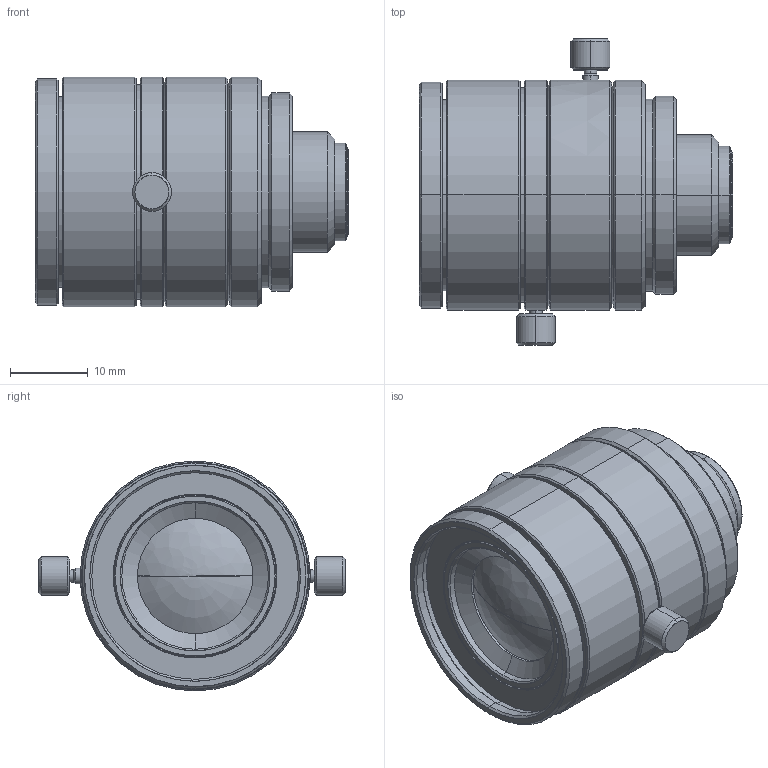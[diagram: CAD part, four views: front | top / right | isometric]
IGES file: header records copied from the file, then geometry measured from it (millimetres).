
Start section: SolidWorks IGES file using analytic representation for surfaces
Global section: file name: C:\Users\tsuji_vst\Documents\【図面】\_3D\00 VST\VS-LDA(APL)\LDA4\VS-LDA4.IGS; native system: SolidWorks 2017; preprocessor: SolidWorks 2017; author: tsuji_vst; date: 170105.100111; units: millimetre
Bounding box: 40.28 x 39.3 x 29.5 mm (x, y, z)
Surface area: 8143.1 mm2 (no closed solid volume)
Topology: 0 solids, 0 shells, 178 faces, 3146 edges, 3144 vertices
Faces by surface type: revolution 149, bspline 29
